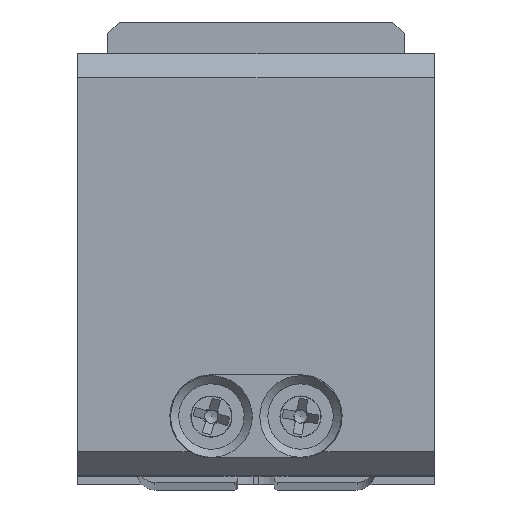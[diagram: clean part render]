
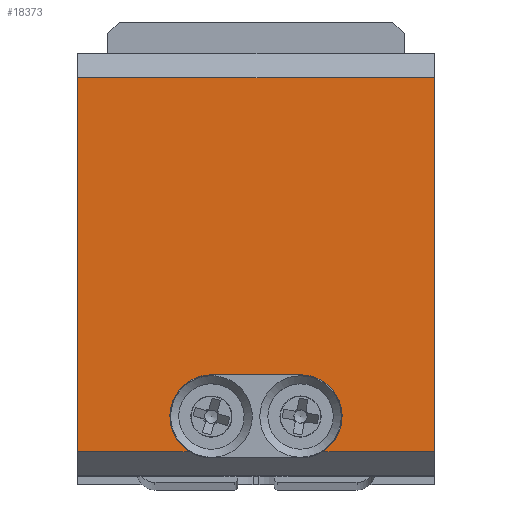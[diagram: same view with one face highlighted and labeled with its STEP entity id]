
A CAD part, top view. The second image highlights one B-rep face of the part: STEP entity #18373.
In plain terms, the highlighted planar face has unit normal (0, 0, 1).
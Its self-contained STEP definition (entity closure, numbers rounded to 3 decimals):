
#313 = DIRECTION ( 'NONE',  ( 1., 0., 0. ) ) ;
#424 = DIRECTION ( 'NONE',  ( 1., 0., 0. ) ) ;
#1059 = LINE ( 'NONE', #33450, #38078 ) ;
#1411 = EDGE_CURVE ( 'NONE', #10496, #22976, #25067, .T. ) ;
#1596 = ORIENTED_EDGE ( 'NONE', *, *, #1411, .T. ) ;
#2052 = ORIENTED_EDGE ( 'NONE', *, *, #3343, .F. ) ;
#2681 = ORIENTED_EDGE ( 'NONE', *, *, #35836, .T. ) ;
#2851 = CARTESIAN_POINT ( 'NONE',  ( -6.3, -3.203, 281.054 ) ) ;
#3116 = LINE ( 'NONE', #29557, #11889 ) ;
#3330 = CARTESIAN_POINT ( 'NONE',  ( 3.003, -6.203, 281.054 ) ) ;
#3343 = EDGE_CURVE ( 'NONE', #26327, #29919, #3116, .T. ) ;
#3680 = VECTOR ( 'NONE', #30966, 1000. ) ;
#4316 = CARTESIAN_POINT ( 'NONE',  ( -6.3, 0.297, 281.054 ) ) ;
#4471 = VERTEX_POINT ( 'NONE', #27637 ) ;
#4585 = CARTESIAN_POINT ( 'NONE',  ( -17.55, 25.297, 281.054 ) ) ;
#5029 = CIRCLE ( 'NONE', #26608, 3.5 ) ;
#6019 = LINE ( 'NONE', #35729, #19226 ) ;
#6073 = DIRECTION ( 'NONE',  ( -1., 0., 0. ) ) ;
#7506 = ORIENTED_EDGE ( 'NONE', *, *, #24766, .F. ) ;
#7784 = DIRECTION ( 'NONE',  ( 0., 0., 1. ) ) ;
#8593 = PLANE ( 'NONE',  #31334 ) ;
#8939 = VERTEX_POINT ( 'NONE', #3330 ) ;
#10496 = VERTEX_POINT ( 'NONE', #35233 ) ;
#11492 = FACE_OUTER_BOUND ( 'NONE', #26420, .T. ) ;
#11889 = VECTOR ( 'NONE', #21057, 1000. ) ;
#13699 = CARTESIAN_POINT ( 'NONE',  ( -17.55, -6.203, 281.054 ) ) ;
#14403 = DIRECTION ( 'NONE',  ( 0., 0., -1. ) ) ;
#16110 = CARTESIAN_POINT ( 'NONE',  ( 12.45, 27.297, 281.054 ) ) ;
#17606 = EDGE_CURVE ( 'NONE', #8939, #32323, #32728, .T. ) ;
#18373 = ADVANCED_FACE ( 'NONE', ( #11492 ), #8593, .F. ) ;
#19226 = VECTOR ( 'NONE', #424, 1000. ) ;
#19601 = LINE ( 'NONE', #16110, #3680 ) ;
#20100 = VERTEX_POINT ( 'NONE', #13699 ) ;
#21057 = DIRECTION ( 'NONE',  ( -1., 0., 0. ) ) ;
#22031 = ORIENTED_EDGE ( 'NONE', *, *, #30591, .F. ) ;
#22465 = CARTESIAN_POINT ( 'NONE',  ( 1.2, -3.203, 281.054 ) ) ;
#22976 = VERTEX_POINT ( 'NONE', #25693 ) ;
#24058 = CARTESIAN_POINT ( 'NONE',  ( -17.55, -6.203, 281.054 ) ) ;
#24624 = EDGE_CURVE ( 'NONE', #20100, #22976, #1059, .T. ) ;
#24766 = EDGE_CURVE ( 'NONE', #29919, #4471, #27592, .T. ) ;
#25067 = LINE ( 'NONE', #4585, #34810 ) ;
#25324 = ORIENTED_EDGE ( 'NONE', *, *, #30801, .T. ) ;
#25693 = CARTESIAN_POINT ( 'NONE',  ( -17.55, 25.297, 281.054 ) ) ;
#25935 = CARTESIAN_POINT ( 'NONE',  ( 12.45, -6.203, 281.054 ) ) ;
#26327 = VERTEX_POINT ( 'NONE', #32072 ) ;
#26420 = EDGE_LOOP ( 'NONE', ( #7506, #2052, #22031, #34928, #2681, #1596, #26747, #25324 ) ) ;
#26608 = AXIS2_PLACEMENT_3D ( 'NONE', #22465, #7784, #34008 ) ;
#26747 = ORIENTED_EDGE ( 'NONE', *, *, #24624, .F. ) ;
#26774 = DIRECTION ( 'NONE',  ( 0., 0., 1. ) ) ;
#27300 = DIRECTION ( 'NONE',  ( 0., 1., 0. ) ) ;
#27592 = CIRCLE ( 'NONE', #35604, 3.5 ) ;
#27637 = CARTESIAN_POINT ( 'NONE',  ( -8.103, -6.203, 281.054 ) ) ;
#28147 = DIRECTION ( 'NONE',  ( -1., 0., 0. ) ) ;
#29557 = CARTESIAN_POINT ( 'NONE',  ( -6.3, 0.297, 281.054 ) ) ;
#29919 = VERTEX_POINT ( 'NONE', #4316 ) ;
#30591 = EDGE_CURVE ( 'NONE', #8939, #26327, #5029, .T. ) ;
#30801 = EDGE_CURVE ( 'NONE', #20100, #4471, #6019, .T. ) ;
#30966 = DIRECTION ( 'NONE',  ( 0., 1., 0. ) ) ;
#31275 = VECTOR ( 'NONE', #313, 1000. ) ;
#31334 = AXIS2_PLACEMENT_3D ( 'NONE', #32504, #14403, #6073 ) ;
#32072 = CARTESIAN_POINT ( 'NONE',  ( 1.2, 0.297, 281.054 ) ) ;
#32323 = VERTEX_POINT ( 'NONE', #25935 ) ;
#32504 = CARTESIAN_POINT ( 'NONE',  ( -17.55, 27.297, 281.054 ) ) ;
#32728 = LINE ( 'NONE', #24058, #31275 ) ;
#32910 = DIRECTION ( 'NONE',  ( 1., 0., 0. ) ) ;
#33450 = CARTESIAN_POINT ( 'NONE',  ( -17.55, 27.297, 281.054 ) ) ;
#34008 = DIRECTION ( 'NONE',  ( 1., 0., 0. ) ) ;
#34810 = VECTOR ( 'NONE', #28147, 1000. ) ;
#34928 = ORIENTED_EDGE ( 'NONE', *, *, #17606, .T. ) ;
#35233 = CARTESIAN_POINT ( 'NONE',  ( 12.45, 25.297, 281.054 ) ) ;
#35604 = AXIS2_PLACEMENT_3D ( 'NONE', #2851, #26774, #32910 ) ;
#35729 = CARTESIAN_POINT ( 'NONE',  ( -17.55, -6.203, 281.054 ) ) ;
#35836 = EDGE_CURVE ( 'NONE', #32323, #10496, #19601, .T. ) ;
#38078 = VECTOR ( 'NONE', #27300, 1000. ) ;
